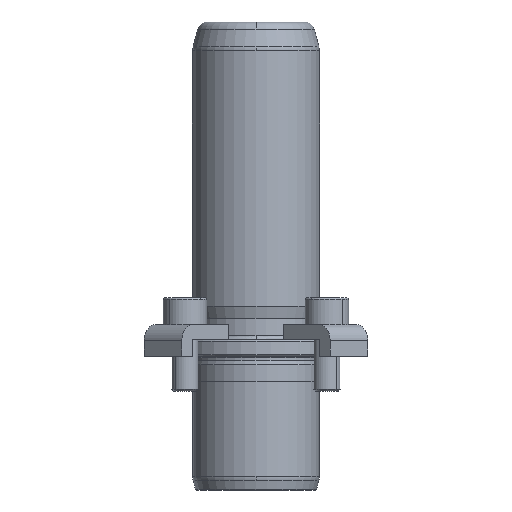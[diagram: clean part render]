
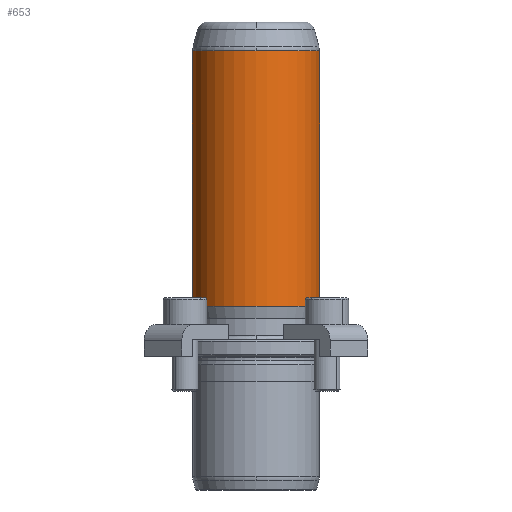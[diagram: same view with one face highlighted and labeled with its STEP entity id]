
A CAD part, front view. The second image highlights one B-rep face of the part: STEP entity #653.
In plain terms, the highlighted cylindrical face has radius 19 mm (diameter 38 mm), a partial arc.
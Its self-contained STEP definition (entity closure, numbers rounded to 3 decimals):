
#566=CARTESIAN_POINT('',(0.0,-19.,91.342));
#567=VERTEX_POINT('',#566);
#594=CARTESIAN_POINT('',(-19.0,0.,91.342));
#595=VERTEX_POINT('',#594);
#603=CARTESIAN_POINT('',(0.0,0.,91.342));
#604=DIRECTION('',(0.0,0.0,1.0));
#605=DIRECTION('',(1.0,0.0,0.0));
#606=AXIS2_PLACEMENT_3D('',#603,#604,#605);
#607=CIRCLE('',#606,19.0);
#608=EDGE_CURVE('',#595,#567,#607,.T.);
#613=CARTESIAN_POINT('',(0.0,0.,53.171));
#614=DIRECTION('',(0.0,0.,1.0));
#615=DIRECTION('',(1.0,0.0,0.0));
#616=AXIS2_PLACEMENT_3D('',#613,#614,#615);
#617=CYLINDRICAL_SURFACE('',#616,19.0);
#618=CARTESIAN_POINT('',(19.0,0.,91.342));
#619=VERTEX_POINT('',#618);
#620=CARTESIAN_POINT('',(19.0,0.,15.0));
#621=VERTEX_POINT('',#620);
#622=CARTESIAN_POINT('',(19.0,0.,91.342));
#623=DIRECTION('',(0.0,0.0,-1.0));
#624=VECTOR('',#623,76.342);
#625=LINE('',#622,#624);
#626=EDGE_CURVE('',#619,#621,#625,.T.);
#627=ORIENTED_EDGE('',*,*,#626,.F.);
#628=CARTESIAN_POINT('',(0.0,0.,91.342));
#629=DIRECTION('',(0.0,0.0,1.0));
#630=DIRECTION('',(1.0,0.0,0.0));
#631=AXIS2_PLACEMENT_3D('',#628,#629,#630);
#632=CIRCLE('',#631,19.0);
#633=EDGE_CURVE('',#567,#619,#632,.T.);
#634=ORIENTED_EDGE('',*,*,#633,.F.);
#635=ORIENTED_EDGE('',*,*,#608,.F.);
#636=CARTESIAN_POINT('',(-19.0,0.,15.0));
#637=VERTEX_POINT('',#636);
#638=CARTESIAN_POINT('',(-19.0,0.,91.342));
#639=DIRECTION('',(0.0,0.0,-1.0));
#640=VECTOR('',#639,76.342);
#641=LINE('',#638,#640);
#642=EDGE_CURVE('',#595,#637,#641,.T.);
#643=ORIENTED_EDGE('',*,*,#642,.T.);
#644=CARTESIAN_POINT('',(0.0,0.,15.0));
#645=DIRECTION('',(0.0,0.0,1.0));
#646=DIRECTION('',(1.0,0.0,0.0));
#647=AXIS2_PLACEMENT_3D('',#644,#645,#646);
#648=CIRCLE('',#647,19.0);
#649=EDGE_CURVE('',#637,#621,#648,.T.);
#650=ORIENTED_EDGE('',*,*,#649,.T.);
#651=EDGE_LOOP('',(#627,#634,#635,#643,#650));
#652=FACE_OUTER_BOUND('',#651,.T.);
#653=ADVANCED_FACE('',(#652),#617,.T.);
